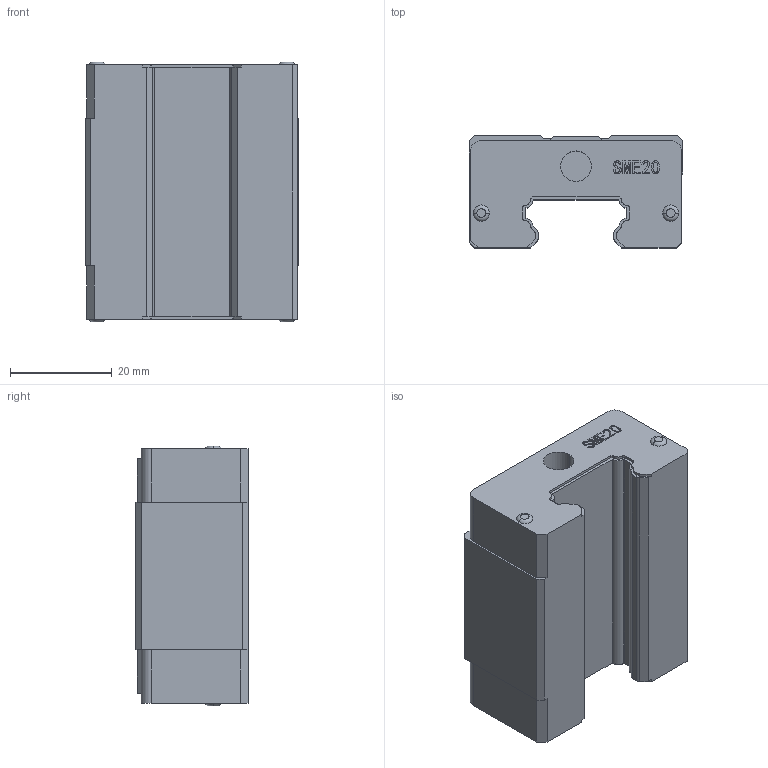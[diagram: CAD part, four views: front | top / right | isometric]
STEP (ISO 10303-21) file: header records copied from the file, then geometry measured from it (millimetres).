
FILE_DESCRIPTION (( 'STEP AP203' ), '1' );
FILE_NAME ('SME20BS.stp', '2019-09-21T05:30:04', ( 'pgos' ), ( '' ), 'SwSTEP 2.0', 'SolidWorks 2014', '' );
FILE_SCHEMA (( 'CONFIG_CONTROL_DESIGN' ));
Length unit declared in the file: millimetre
Products named in the file (1): SME20BS
Bounding box: 42 x 22 x 51 mm (x, y, z)
Volume: 35683.7 mm3; surface area: 9572.5 mm2
Topology: 1 solids, 1 shells, 225 faces, 620 edges, 413 vertices
Faces by surface type: plane 125, cylinder 63, bspline 25, torus 8, cone 4
Entity records: 9023 total; most frequent: CARTESIAN_POINT 3240, ORIENTED_EDGE 1240, DIRECTION 1116, EDGE_CURVE 620, VERTEX_POINT 413, VECTOR 406, LINE 406, AXIS2_PLACEMENT_3D 355
